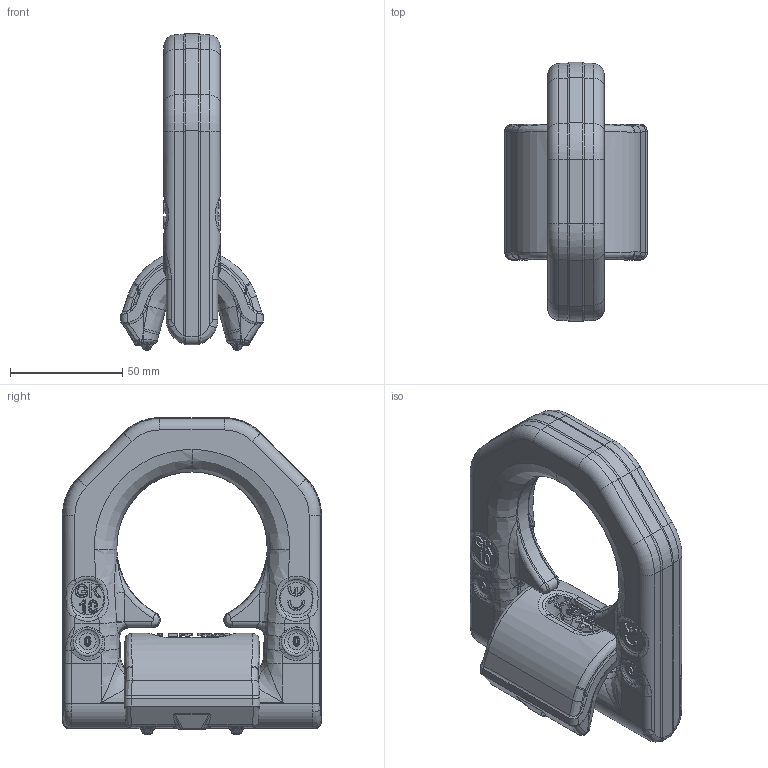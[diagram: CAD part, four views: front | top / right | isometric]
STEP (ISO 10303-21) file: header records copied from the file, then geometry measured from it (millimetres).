
FILE_DESCRIPTION((''),'2;1');
FILE_NAME('SFA-2617-0000_SFA-2618-0000_SFA-2641-0000_90°','2013-12-04T16:39:40',('Luca'),(''),'CADlook_v9.0','Cimatron E 8.0','');
FILE_SCHEMA(('AUTOMOTIVE_DESIGN { 1 2 10303 214 0 1 1 1 }'));
Length unit declared in the file: millimetre
Bounding box: 63.5 x 115.4 x 141.16 mm (x, y, z)
Volume: 290263.9 mm3; surface area: 48164.7 mm2
Topology: 2 solids, 2 shells, 1186 faces, 3017 edges, 1842 vertices
Faces by surface type: bspline 580, plane 291, cylinder 214, torus 59, cone 26, sphere 16
Full cylindrical faces by diameter (mm): 8.2 x1
Entity records: 95817 total; most frequent: CARTESIAN_POINT 61740, ORIENTED_EDGE 5954, DIRECTION 3892, EDGE_CURVE 2977, VERTEX_POINT 1837, AXIS2_PLACEMENT_3D 1483, EDGE_LOOP 1230, COLOUR_RGB 1188
